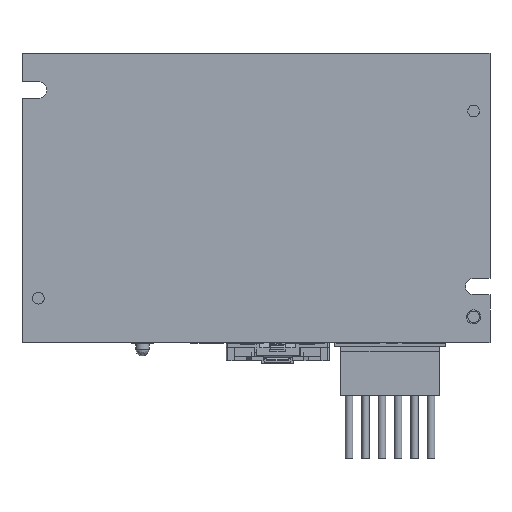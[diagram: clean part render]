
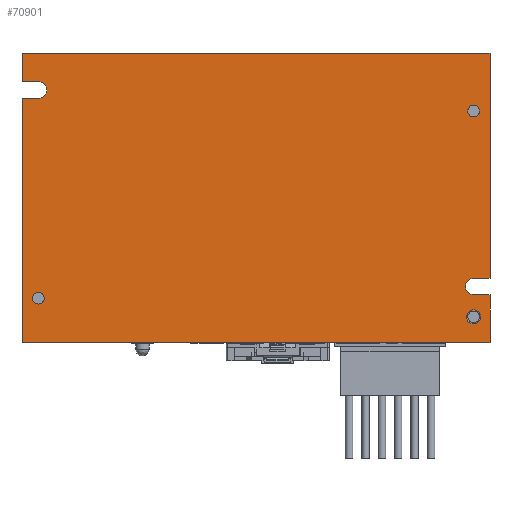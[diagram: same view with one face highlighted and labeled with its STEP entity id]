
A CAD part, front view. The second image highlights one B-rep face of the part: STEP entity #70901.
In plain terms, the highlighted planar face has unit normal (0, -1, 0).
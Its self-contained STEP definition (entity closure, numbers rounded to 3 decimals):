
#879 = ORIENTED_EDGE ( 'NONE', *, *, #97705, .T. ) ;
#2660 = ORIENTED_EDGE ( 'NONE', *, *, #11141, .T. ) ;
#3348 = EDGE_CURVE ( 'NONE', #52217, #52217, #6886, .T. ) ;
#3931 = DIRECTION ( 'NONE',  ( 1., 0., 0. ) ) ;
#3935 = CIRCLE ( 'NONE', #31893, 1.25 ) ;
#4159 = CARTESIAN_POINT ( 'NONE',  ( -46.5, -0.5, -51.25 ) ) ;
#4727 = DIRECTION ( 'NONE',  ( 1., 0., 0. ) ) ;
#5222 = FACE_BOUND ( 'NONE', #25298, .T. ) ;
#6477 = CARTESIAN_POINT ( 'NONE',  ( -50., -0.5, -9.75 ) ) ;
#6509 = VECTOR ( 'NONE', #63261, 1000. ) ;
#6886 = CIRCLE ( 'NONE', #104517, 1.25 ) ;
#7151 = EDGE_LOOP ( 'NONE', ( #879 ) ) ;
#10862 = ORIENTED_EDGE ( 'NONE', *, *, #91353, .T. ) ;
#11141 = EDGE_CURVE ( 'NONE', #41232, #77558, #70352, .T. ) ;
#11584 = DIRECTION ( 'NONE',  ( 0., 1., 0. ) ) ;
#12056 = CIRCLE ( 'NONE', #35756, 1.25 ) ;
#12546 = EDGE_CURVE ( 'NONE', #65942, #37845, #28109, .T. ) ;
#12617 = CARTESIAN_POINT ( 'NONE',  ( -46.5, -0.5, -8. ) ) ;
#14177 = CARTESIAN_POINT ( 'NONE',  ( -50., -0.5, -6.25 ) ) ;
#15507 = CARTESIAN_POINT ( 'NONE',  ( 46.5, -0.5, -48.25 ) ) ;
#17017 = CARTESIAN_POINT ( 'NONE',  ( -50., -0.5, -0.2 ) ) ;
#17113 = CARTESIAN_POINT ( 'NONE',  ( 50., -0.5, -62. ) ) ;
#17119 = CARTESIAN_POINT ( 'NONE',  ( -46.5, -0.5, -52.5 ) ) ;
#19734 = CIRCLE ( 'NONE', #34222, 1.75 ) ;
#19759 = DIRECTION ( 'NONE',  ( 0., 1., 0. ) ) ;
#20323 = VERTEX_POINT ( 'NONE', #75795 ) ;
#20745 = PLANE ( 'NONE',  #28471 ) ;
#21340 = DIRECTION ( 'NONE',  ( -1., 0., 0. ) ) ;
#21465 = ORIENTED_EDGE ( 'NONE', *, *, #12546, .T. ) ;
#21865 = CARTESIAN_POINT ( 'NONE',  ( 50., -0.5, -51.75 ) ) ;
#22077 = VERTEX_POINT ( 'NONE', #93003 ) ;
#22244 = CARTESIAN_POINT ( 'NONE',  ( -50., -0.5, -6.25 ) ) ;
#22823 = VECTOR ( 'NONE', #42193, 1000. ) ;
#23574 = LINE ( 'NONE', #72983, #45198 ) ;
#23673 = DIRECTION ( 'NONE',  ( 0., 1., 0. ) ) ;
#25155 = EDGE_CURVE ( 'NONE', #35001, #80659, #25466, .T. ) ;
#25235 = DIRECTION ( 'NONE',  ( -1., 0., 0. ) ) ;
#25298 = EDGE_LOOP ( 'NONE', ( #41384 ) ) ;
#25350 = DIRECTION ( 'NONE',  ( 0., 0., 1. ) ) ;
#25466 = LINE ( 'NONE', #17017, #66130 ) ;
#25868 = CARTESIAN_POINT ( 'NONE',  ( 50., -0.5, -0.2 ) ) ;
#27450 = EDGE_CURVE ( 'NONE', #22077, #41232, #19734, .T. ) ;
#28109 = LINE ( 'NONE', #6477, #6509 ) ;
#28471 = AXIS2_PLACEMENT_3D ( 'NONE', #12617, #101898, #77640 ) ;
#28897 = CARTESIAN_POINT ( 'NONE',  ( -50., -0.5, -62. ) ) ;
#29117 = VERTEX_POINT ( 'NONE', #74763 ) ;
#29402 = FACE_BOUND ( 'NONE', #7151, .T. ) ;
#30070 = CARTESIAN_POINT ( 'NONE',  ( 50., -0.5, -62. ) ) ;
#30944 = CARTESIAN_POINT ( 'NONE',  ( 46.5, -0.5, -12.5 ) ) ;
#31163 = EDGE_CURVE ( 'NONE', #39526, #44323, #91162, .T. ) ;
#31893 = AXIS2_PLACEMENT_3D ( 'NONE', #72394, #23673, #80553 ) ;
#32938 = CARTESIAN_POINT ( 'NONE',  ( -50., -0.5, -0.2 ) ) ;
#34059 = CARTESIAN_POINT ( 'NONE',  ( -50., -0.5, 0. ) ) ;
#34222 = AXIS2_PLACEMENT_3D ( 'NONE', #60189, #11584, #68448 ) ;
#35001 = VERTEX_POINT ( 'NONE', #25868 ) ;
#35756 = AXIS2_PLACEMENT_3D ( 'NONE', #30944, #87879, #39059 ) ;
#37845 = VERTEX_POINT ( 'NONE', #93087 ) ;
#39059 = DIRECTION ( 'NONE',  ( 0., 0., 1. ) ) ;
#39526 = VERTEX_POINT ( 'NONE', #30070 ) ;
#40284 = ORIENTED_EDGE ( 'NONE', *, *, #99001, .T. ) ;
#40454 = ORIENTED_EDGE ( 'NONE', *, *, #31163, .T. ) ;
#40695 = CARTESIAN_POINT ( 'NONE',  ( 50., -0.5, -48.25 ) ) ;
#41232 = VERTEX_POINT ( 'NONE', #15507 ) ;
#41302 = DIRECTION ( 'NONE',  ( 0., 0., 1. ) ) ;
#41384 = ORIENTED_EDGE ( 'NONE', *, *, #3348, .T. ) ;
#42193 = DIRECTION ( 'NONE',  ( 0., 0., -1. ) ) ;
#44323 = VERTEX_POINT ( 'NONE', #21865 ) ;
#44837 = LINE ( 'NONE', #99696, #104722 ) ;
#45198 = VECTOR ( 'NONE', #80834, 1000. ) ;
#45256 = VECTOR ( 'NONE', #41302, 1000. ) ;
#45702 = VECTOR ( 'NONE', #46535, 1000. ) ;
#45878 = VERTEX_POINT ( 'NONE', #22244 ) ;
#46535 = DIRECTION ( 'NONE',  ( 1., 0., 0. ) ) ;
#48461 = FACE_BOUND ( 'NONE', #102827, .T. ) ;
#52217 = VERTEX_POINT ( 'NONE', #4159 ) ;
#53110 = ORIENTED_EDGE ( 'NONE', *, *, #97524, .T. ) ;
#55660 = AXIS2_PLACEMENT_3D ( 'NONE', #68490, #19759, #76644 ) ;
#59027 = DIRECTION ( 'NONE',  ( 0., 0., 1. ) ) ;
#60189 = CARTESIAN_POINT ( 'NONE',  ( 46.5, -0.5, -50. ) ) ;
#61517 = ORIENTED_EDGE ( 'NONE', *, *, #75026, .T. ) ;
#62012 = ORIENTED_EDGE ( 'NONE', *, *, #25155, .T. ) ;
#62212 = VECTOR ( 'NONE', #4727, 1000. ) ;
#63261 = DIRECTION ( 'NONE',  ( 0., 0., -1. ) ) ;
#64812 = LINE ( 'NONE', #28897, #62212 ) ;
#65942 = VERTEX_POINT ( 'NONE', #95724 ) ;
#66130 = VECTOR ( 'NONE', #25235, 1000. ) ;
#66215 = EDGE_LOOP ( 'NONE', ( #62012, #40284, #69132, #53110, #10862, #21465, #102801, #40454, #99113, #89992, #2660, #61517 ) ) ;
#67297 = LINE ( 'NONE', #14177, #45702 ) ;
#68448 = DIRECTION ( 'NONE',  ( 0., 0., -1. ) ) ;
#68490 = CARTESIAN_POINT ( 'NONE',  ( -46.5, -0.5, -8. ) ) ;
#69132 = ORIENTED_EDGE ( 'NONE', *, *, #88736, .T. ) ;
#69220 = EDGE_CURVE ( 'NONE', #29117, #29117, #12056, .T. ) ;
#70061 = CARTESIAN_POINT ( 'NONE',  ( 50., -0.5, -51.75 ) ) ;
#70352 = LINE ( 'NONE', #93257, #89520 ) ;
#70901 = ADVANCED_FACE ( 'NONE', ( #89260, #48461, #29402, #5222 ), #20745, .T. ) ;
#72394 = CARTESIAN_POINT ( 'NONE',  ( 46.5, -0.5, -56.5 ) ) ;
#72983 = CARTESIAN_POINT ( 'NONE',  ( -46.5, -0.5, -9.75 ) ) ;
#73398 = ORIENTED_EDGE ( 'NONE', *, *, #69220, .T. ) ;
#74017 = DIRECTION ( 'NONE',  ( 0., 1., 0. ) ) ;
#74763 = CARTESIAN_POINT ( 'NONE',  ( 46.5, -0.5, -11.25 ) ) ;
#75026 = EDGE_CURVE ( 'NONE', #77558, #35001, #44837, .T. ) ;
#75795 = CARTESIAN_POINT ( 'NONE',  ( -46.5, -0.5, -9.75 ) ) ;
#76319 = EDGE_CURVE ( 'NONE', #37845, #39526, #64812, .T. ) ;
#76644 = DIRECTION ( 'NONE',  ( 0., 0., -1. ) ) ;
#77558 = VERTEX_POINT ( 'NONE', #40695 ) ;
#77640 = DIRECTION ( 'NONE',  ( 0., 0., -1. ) ) ;
#80553 = DIRECTION ( 'NONE',  ( 0., 0., 1. ) ) ;
#80659 = VERTEX_POINT ( 'NONE', #32938 ) ;
#80834 = DIRECTION ( 'NONE',  ( -1., 0., 0. ) ) ;
#85143 = CARTESIAN_POINT ( 'NONE',  ( 46.5, -0.5, -55.25 ) ) ;
#86709 = CIRCLE ( 'NONE', #55660, 1.75 ) ;
#87777 = LINE ( 'NONE', #34059, #22823 ) ;
#87879 = DIRECTION ( 'NONE',  ( 0., 1., 0. ) ) ;
#88736 = EDGE_CURVE ( 'NONE', #45878, #104203, #67297, .T. ) ;
#89260 = FACE_OUTER_BOUND ( 'NONE', #66215, .T. ) ;
#89520 = VECTOR ( 'NONE', #3931, 1000. ) ;
#89992 = ORIENTED_EDGE ( 'NONE', *, *, #27450, .T. ) ;
#90178 = EDGE_CURVE ( 'NONE', #44323, #22077, #95174, .T. ) ;
#91162 = LINE ( 'NONE', #17113, #45256 ) ;
#91353 = EDGE_CURVE ( 'NONE', #20323, #65942, #23574, .T. ) ;
#92776 = CARTESIAN_POINT ( 'NONE',  ( -46.5, -0.5, -6.25 ) ) ;
#93003 = CARTESIAN_POINT ( 'NONE',  ( 46.5, -0.5, -51.75 ) ) ;
#93087 = CARTESIAN_POINT ( 'NONE',  ( -50., -0.5, -62. ) ) ;
#93257 = CARTESIAN_POINT ( 'NONE',  ( 46.5, -0.5, -48.25 ) ) ;
#93986 = VERTEX_POINT ( 'NONE', #85143 ) ;
#95174 = LINE ( 'NONE', #70061, #102802 ) ;
#95724 = CARTESIAN_POINT ( 'NONE',  ( -50., -0.5, -9.75 ) ) ;
#97524 = EDGE_CURVE ( 'NONE', #104203, #20323, #86709, .T. ) ;
#97705 = EDGE_CURVE ( 'NONE', #93986, #93986, #3935, .T. ) ;
#99001 = EDGE_CURVE ( 'NONE', #80659, #45878, #87777, .T. ) ;
#99113 = ORIENTED_EDGE ( 'NONE', *, *, #90178, .T. ) ;
#99696 = CARTESIAN_POINT ( 'NONE',  ( 50., -0.5, -48.25 ) ) ;
#101898 = DIRECTION ( 'NONE',  ( 0., -1., 0. ) ) ;
#102801 = ORIENTED_EDGE ( 'NONE', *, *, #76319, .T. ) ;
#102802 = VECTOR ( 'NONE', #21340, 1000. ) ;
#102827 = EDGE_LOOP ( 'NONE', ( #73398 ) ) ;
#104203 = VERTEX_POINT ( 'NONE', #92776 ) ;
#104517 = AXIS2_PLACEMENT_3D ( 'NONE', #17119, #74017, #25350 ) ;
#104722 = VECTOR ( 'NONE', #59027, 1000. ) ;
